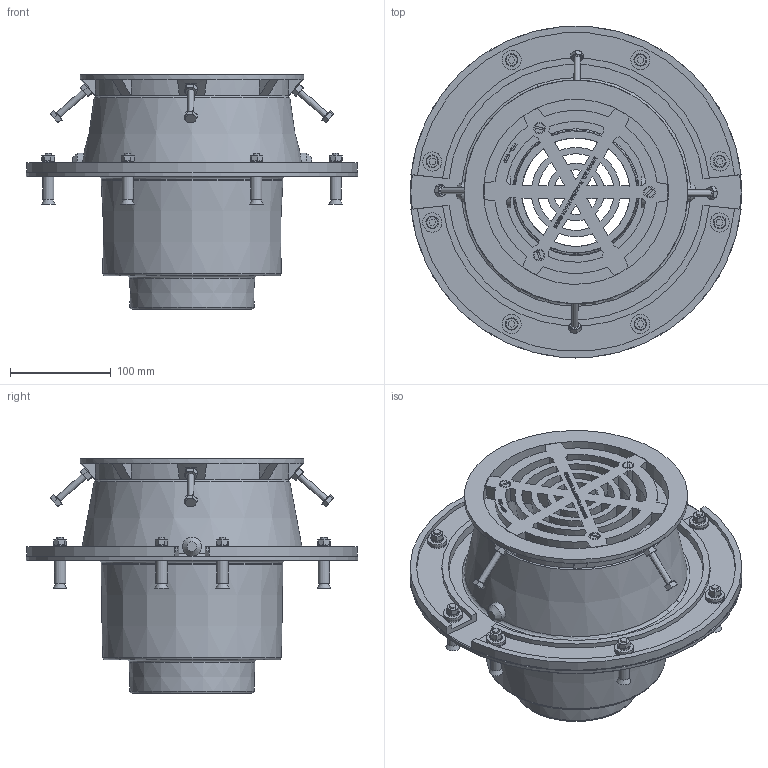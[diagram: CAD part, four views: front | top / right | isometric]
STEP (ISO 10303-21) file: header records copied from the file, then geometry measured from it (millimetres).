
FILE_DESCRIPTION(/* description */ (''),/* implementation_level */ '2;1');
FILE_NAME(/* name */ 'C:\2014_Work\Designs\CFD4.stp',/* time_stamp */ '2014-04-22T09:56:04-04:00',/* author */ ('mleuck'),/* organization */ (''),/* preprocessor_version */ 'ST-DEVELOPER v15.2',/* originating_system */ 'Autodesk Inventor 2014',/* authorisation */ '');
FILE_SCHEMA (('AUTOMOTIVE_DESIGN { 1 0 10303 214 3 1 1 }'));
Length unit declared in the file: inch
Products named in the file (15): D-1440-4 CFD BOTTOM CAST; D-1440-4 CFD TOP CAST; A-16574 GRATE FOR CDF (D-1440); D-1440-4 WEEP HOLE PLUG; ANSI B18.6.2 - 1_4-20 UNC - 0.75(16); D-1440-4  CFD CAST IRON RINGS; ANSI B18.2.2 - 1_4 - 20(2); ASME B18.21.1 - 1_4(2); ANSI B18.22.1 - 1_4 - Regular - Type B; D-1440-4 SLEEVE; D-1440-4 ANCHOR BOLT; D-1440-4 CFD ANCHOR GROMMET; D-1440-4 CFD ANCHOR; D-1440-4 CFD ADJUSTING BOLT; D-1440-4 CFD FLOATING FLOOR DRAIN
Bounding box: 330.2 x 330.2 x 233.62 mm (x, y, z)
Volume: 2356413.8 mm3; surface area: 917268 mm2
Topology: 66 solids, 66 shells, 1346 faces, 3181 edges, 2034 vertices
Faces by surface type: plane 718, cone 319, cylinder 170, bspline 115, torus 24
Full cylindrical faces by diameter (mm): 4.978 x19, 6.35 x15, 6.401 x3, 7.137 x8, 7.938 x16, 11.112 x8, 11.125 x4, 12.7 x16, 18.644 x8, 19.05 x14, 31.75 x2, 146.05 x1, 168.275 x1, 184.15 x1, 193.675 x1, 222.25 x1, 330.2 x1
Entity records: 26572 total; most frequent: CARTESIAN_POINT 6966, ORIENTED_EDGE 4058, DIRECTION 3586, EDGE_CURVE 2029, VERTEX_POINT 1388, AXIS2_PLACEMENT_3D 1197, LINE 1192, VECTOR 1192
